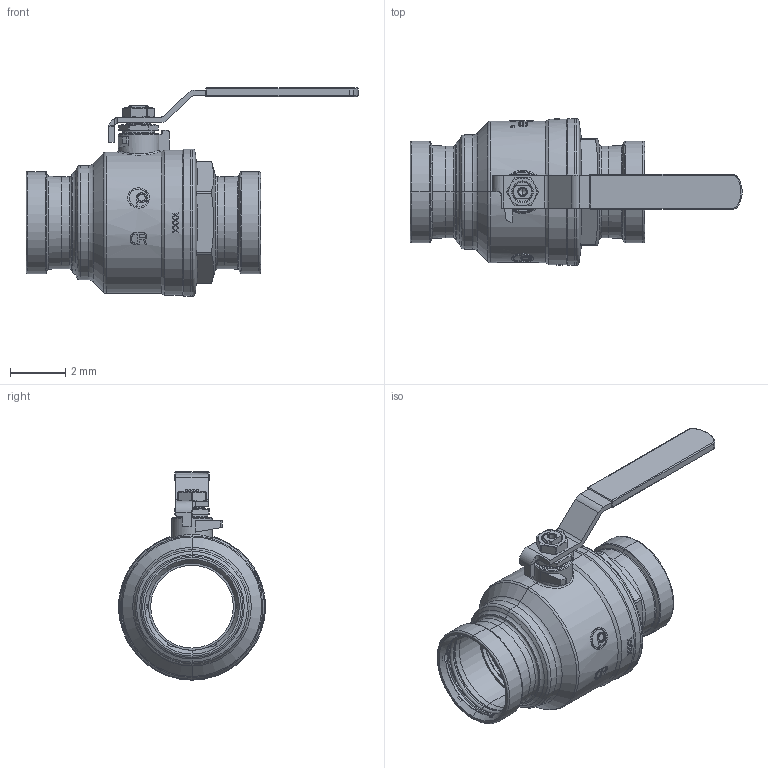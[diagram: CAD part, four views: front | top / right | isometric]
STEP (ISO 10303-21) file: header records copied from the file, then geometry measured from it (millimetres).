
FILE_DESCRIPTION(('Open CASCADE Model'),'2;1');
FILE_NAME('Open CASCADE Shape Model','2022-05-20T16:03:49',('Author'),( 'Open CASCADE'),'Open CASCADE STEP processor 7.3','Open CASCADE 7.3' ,'Unknown');
FILE_SCHEMA(('AUTOMOTIVE_DESIGN { 1 0 10303 214 1 1 1 1 }'));
Length unit declared in the file: millimetre
Products named in the file (24): Open CASCADE STEP translator 7.3 1; Open CASCADE STEP translator 7.3 1.1; Open CASCADE STEP translator 7.3 1.2; Open CASCADE STEP translator 7.3 1.3; Open CASCADE STEP translator 7.3 1.4; Open CASCADE STEP translator 7.3 1.5; Open CASCADE STEP translator 7.3 1.6; Open CASCADE STEP translator 7.3 1.7; Open CASCADE STEP translator 7.3 1.8; Open CASCADE STEP translator 7.3 1.9; Open CASCADE STEP translator 7.3 1.10; Open CASCADE STEP translator 7.3 1.11; Open CASCADE STEP translator 7.3 1.12; Open CASCADE STEP translator 7.3 1.13; Open CASCADE STEP translator 7.3 1.14; Open CASCADE STEP translator 7.3 1.15; Open CASCADE STEP translator 7.3 1.16; Open CASCADE STEP translator 7.3 1.17; Open CASCADE STEP translator 7.3 1.18; Open CASCADE STEP translator 7.3 1.19; Open CASCADE STEP translator 7.3 1.20; Open CASCADE STEP translator 7.3 1.21; Open CASCADE STEP translator 7.3 1.22; Open CASCADE STEP translator 7.3 1.23
Assembly tree (23 placements, depth 2):
  Open CASCADE STEP translator 7.3 1
    Open CASCADE STEP translator 7.3 1.1
    Open CASCADE STEP translator 7.3 1.2
    Open CASCADE STEP translator 7.3 1.3
    Open CASCADE STEP translator 7.3 1.4
    Open CASCADE STEP translator 7.3 1.5
    Open CASCADE STEP translator 7.3 1.6
    Open CASCADE STEP translator 7.3 1.7
    Open CASCADE STEP translator 7.3 1.8
    Open CASCADE STEP translator 7.3 1.9
    Open CASCADE STEP translator 7.3 1.10
    Open CASCADE STEP translator 7.3 1.11
    Open CASCADE STEP translator 7.3 1.12
    Open CASCADE STEP translator 7.3 1.13
    Open CASCADE STEP translator 7.3 1.14
    Open CASCADE STEP translator 7.3 1.15
    Open CASCADE STEP translator 7.3 1.16
    Open CASCADE STEP translator 7.3 1.17
    Open CASCADE STEP translator 7.3 1.18
    Open CASCADE STEP translator 7.3 1.19
    Open CASCADE STEP translator 7.3 1.20
    Open CASCADE STEP translator 7.3 1.21
    Open CASCADE STEP translator 7.3 1.22
    Open CASCADE STEP translator 7.3 1.23
Bounding box: 12.02 x 5.32 x 7.54 mm (x, y, z)
Volume: 55.8 mm3; surface area: 535.4 mm2
Topology: 15 solids, 23 shells, 933 faces, 2333 edges, 1467 vertices
Faces by surface type: extrusion 241, plane 223, cylinder 220, cone 120, torus 101, revolution 16, bspline 6, sphere 6
Entity records: 76116 total; most frequent: CARTESIAN_POINT 31925, DIRECTION 7246, ORIENTED_EDGE 4610, PCURVE 4610, DEFINITIONAL_REPRESENTATION 4610, VECTOR 4031, LINE 3790, EDGE_CURVE 2327
